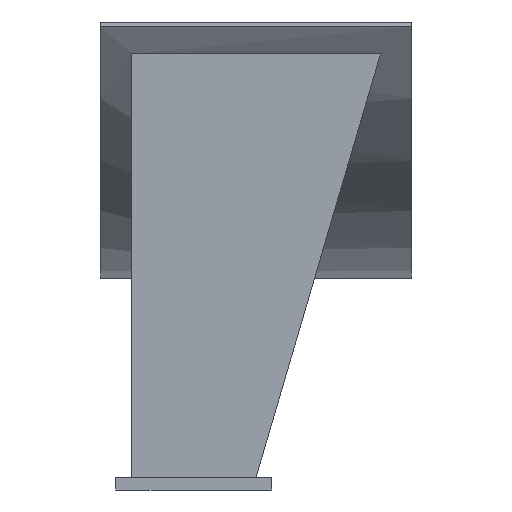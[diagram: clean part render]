
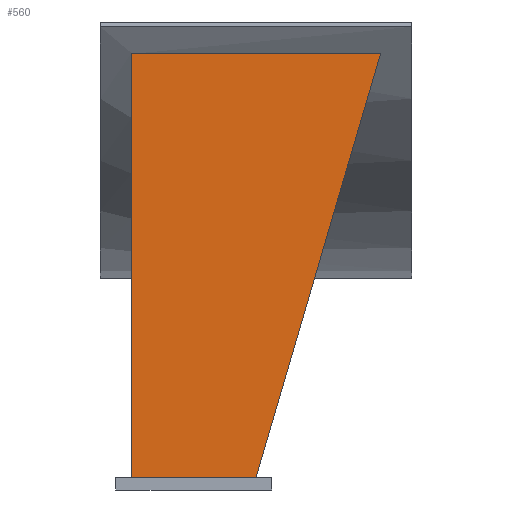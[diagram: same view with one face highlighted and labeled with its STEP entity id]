
A CAD part, front view. The second image highlights one B-rep face of the part: STEP entity #560.
In plain terms, the highlighted planar face has unit normal (0, -1, 0).
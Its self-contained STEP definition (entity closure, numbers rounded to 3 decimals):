
#49=FACE_OUTER_BOUND('',#82,.T.);
#82=EDGE_LOOP('',(#429,#430,#431,#432));
#125=LINE('',#842,#191);
#137=LINE('',#880,#203);
#140=LINE('',#886,#206);
#141=LINE('',#887,#207);
#191=VECTOR('',#677,10.);
#203=VECTOR('',#713,10.);
#206=VECTOR('',#718,10.);
#207=VECTOR('',#719,10.);
#252=VERTEX_POINT('',#839);
#253=VERTEX_POINT('',#841);
#267=VERTEX_POINT('',#879);
#269=VERTEX_POINT('',#885);
#307=EDGE_CURVE('',#252,#253,#125,.T.);
#326=EDGE_CURVE('',#252,#267,#137,.T.);
#329=EDGE_CURVE('',#269,#267,#140,.T.);
#330=EDGE_CURVE('',#253,#269,#141,.T.);
#429=ORIENTED_EDGE('',*,*,#326,.T.);
#430=ORIENTED_EDGE('',*,*,#329,.F.);
#431=ORIENTED_EDGE('',*,*,#330,.F.);
#432=ORIENTED_EDGE('',*,*,#307,.F.);
#532=PLANE('',#617);
#560=ADVANCED_FACE('',(#49),#532,.T.);
#617=AXIS2_PLACEMENT_3D('',#884,#716,#717);
#677=DIRECTION('',(-1.,0.,0.));
#713=DIRECTION('',(0.282,0.,0.96));
#716=DIRECTION('center_axis',(0.,-1.,0.));
#717=DIRECTION('ref_axis',(0.,0.,-1.));
#718=DIRECTION('',(1.,0.,0.));
#719=DIRECTION('',(0.,0.,1.));
#839=CARTESIAN_POINT('',(60.,-419.,12.));
#841=CARTESIAN_POINT('',(-60.,-419.,12.));
#842=CARTESIAN_POINT('',(-30.,-419.,12.));
#879=CARTESIAN_POINT('',(180.,-419.,420.866));
#880=CARTESIAN_POINT('',(110.483,-419.,184.007));
#884=CARTESIAN_POINT('Origin',(-60.,-419.,420.866));
#885=CARTESIAN_POINT('',(-60.,-419.,420.866));
#886=CARTESIAN_POINT('',(-60.,-419.,420.866));
#887=CARTESIAN_POINT('',(-60.,-419.,12.));
